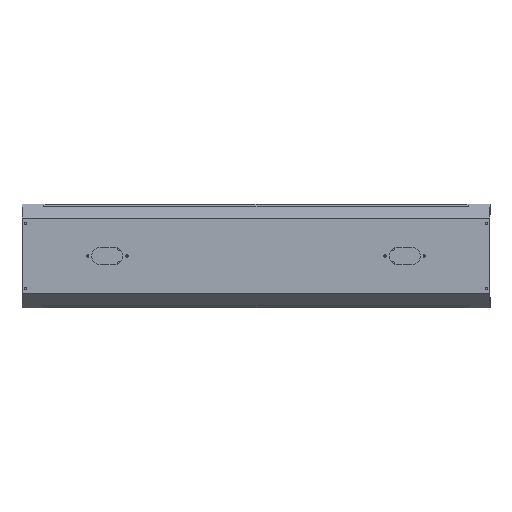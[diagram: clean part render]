
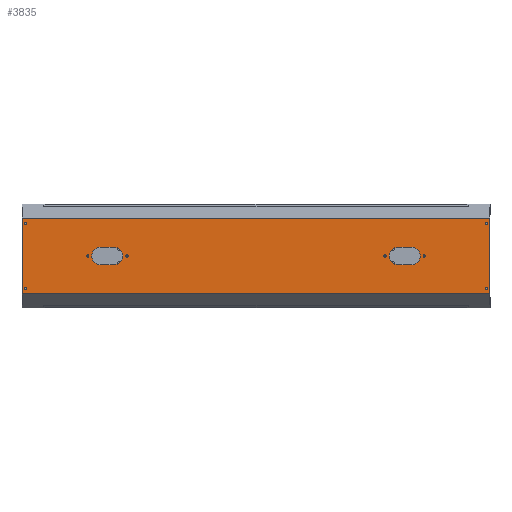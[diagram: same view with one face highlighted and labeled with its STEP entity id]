
A CAD part, front view. The second image highlights one B-rep face of the part: STEP entity #3835.
In plain terms, the highlighted planar face has unit normal (0, -1, 0).
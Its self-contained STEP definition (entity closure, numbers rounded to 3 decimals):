
#673=DIRECTION('',(1.,0.,0.));
#674=VECTOR('',#673,1351.6);
#675=CARTESIAN_POINT('',(-675.8,-150.,-108.893));
#676=LINE('',#675,#674);
#796=DIRECTION('',(0.,0.,-1.));
#797=VECTOR('',#796,217.785);
#798=CARTESIAN_POINT('',(-675.8,-150.,108.893));
#799=LINE('',#798,#797);
#808=DIRECTION('',(1.,0.,0.));
#809=VECTOR('',#808,1351.6);
#810=CARTESIAN_POINT('',(-675.8,-150.,108.893));
#811=LINE('',#810,#809);
#826=CARTESIAN_POINT('',(-410.,-150.,0.));
#827=DIRECTION('',(0.,-1.,0.));
#828=DIRECTION('',(0.,0.,-1.));
#829=AXIS2_PLACEMENT_3D('',#826,#827,#828);
#831=DIRECTION('',(1.,0.,0.));
#832=VECTOR('',#831,40.);
#833=CARTESIAN_POINT('',(-450.,-150.,25.));
#834=LINE('',#833,#832);
#835=CARTESIAN_POINT('',(-450.,-150.,0.));
#836=DIRECTION('',(0.,-1.,0.));
#837=DIRECTION('',(0.,0.,1.));
#838=AXIS2_PLACEMENT_3D('',#835,#836,#837);
#840=DIRECTION('',(-1.,0.,0.));
#841=VECTOR('',#840,40.);
#842=CARTESIAN_POINT('',(-410.,-150.,-25.));
#843=LINE('',#842,#841);
#844=CARTESIAN_POINT('',(410.,-150.,0.));
#845=DIRECTION('',(0.,-1.,0.));
#846=DIRECTION('',(0.,0.,1.));
#847=AXIS2_PLACEMENT_3D('',#844,#845,#846);
#849=DIRECTION('',(1.,0.,0.));
#850=VECTOR('',#849,40.);
#851=CARTESIAN_POINT('',(410.,-150.,-25.));
#852=LINE('',#851,#850);
#853=CARTESIAN_POINT('',(450.,-150.,0.));
#854=DIRECTION('',(0.,-1.,0.));
#855=DIRECTION('',(0.,0.,-1.));
#856=AXIS2_PLACEMENT_3D('',#853,#854,#855);
#858=DIRECTION('',(-1.,0.,0.));
#859=VECTOR('',#858,40.);
#860=CARTESIAN_POINT('',(450.,-150.,25.));
#861=LINE('',#860,#859);
#862=CARTESIAN_POINT('',(667.8,-150.,94.2));
#863=DIRECTION('',(0.,-1.,0.));
#864=DIRECTION('',(0.,0.,1.));
#865=AXIS2_PLACEMENT_3D('',#862,#863,#864);
#867=CARTESIAN_POINT('',(667.8,-150.,94.2));
#868=DIRECTION('',(0.,-1.,0.));
#869=DIRECTION('',(0.,0.,-1.));
#870=AXIS2_PLACEMENT_3D('',#867,#868,#869);
#872=CARTESIAN_POINT('',(667.8,-150.,-94.2));
#873=DIRECTION('',(0.,1.,0.));
#874=DIRECTION('',(0.,0.,-1.));
#875=AXIS2_PLACEMENT_3D('',#872,#873,#874);
#877=CARTESIAN_POINT('',(667.8,-150.,-94.2));
#878=DIRECTION('',(0.,1.,0.));
#879=DIRECTION('',(0.,0.,1.));
#880=AXIS2_PLACEMENT_3D('',#877,#878,#879);
#882=CARTESIAN_POINT('',(-667.8,-150.,94.2));
#883=DIRECTION('',(0.,1.,0.));
#884=DIRECTION('',(0.,0.,1.));
#885=AXIS2_PLACEMENT_3D('',#882,#883,#884);
#887=CARTESIAN_POINT('',(-667.8,-150.,94.2));
#888=DIRECTION('',(0.,1.,0.));
#889=DIRECTION('',(0.,0.,-1.));
#890=AXIS2_PLACEMENT_3D('',#887,#888,#889);
#892=CARTESIAN_POINT('',(-667.8,-150.,-94.2));
#893=DIRECTION('',(0.,-1.,0.));
#894=DIRECTION('',(0.,0.,-1.));
#895=AXIS2_PLACEMENT_3D('',#892,#893,#894);
#897=CARTESIAN_POINT('',(-667.8,-150.,-94.2));
#898=DIRECTION('',(0.,-1.,0.));
#899=DIRECTION('',(0.,0.,1.));
#900=AXIS2_PLACEMENT_3D('',#897,#898,#899);
#910=DIRECTION('',(0.,0.,-1.));
#911=VECTOR('',#910,217.785);
#912=CARTESIAN_POINT('',(675.8,-150.,108.893));
#913=LINE('',#912,#911);
#1630=CARTESIAN_POINT('',(-487.,-150.,0.));
#1631=DIRECTION('',(0.,-1.,0.));
#1632=DIRECTION('',(-1.,0.,0.));
#1633=AXIS2_PLACEMENT_3D('',#1630,#1631,#1632);
#1645=CARTESIAN_POINT('',(-487.,-150.,0.));
#1646=DIRECTION('',(0.,-1.,0.));
#1647=DIRECTION('',(1.,0.,0.));
#1648=AXIS2_PLACEMENT_3D('',#1645,#1646,#1647);
#1714=CARTESIAN_POINT('',(-373.,-150.,0.));
#1715=DIRECTION('',(0.,-1.,0.));
#1716=DIRECTION('',(-1.,0.,0.));
#1717=AXIS2_PLACEMENT_3D('',#1714,#1715,#1716);
#1729=CARTESIAN_POINT('',(-373.,-150.,0.));
#1730=DIRECTION('',(0.,-1.,0.));
#1731=DIRECTION('',(1.,0.,0.));
#1732=AXIS2_PLACEMENT_3D('',#1729,#1730,#1731);
#1814=CARTESIAN_POINT('',(373.,-150.,0.));
#1815=DIRECTION('',(0.,-1.,0.));
#1816=DIRECTION('',(-1.,0.,0.));
#1817=AXIS2_PLACEMENT_3D('',#1814,#1815,#1816);
#1829=CARTESIAN_POINT('',(373.,-150.,0.));
#1830=DIRECTION('',(0.,-1.,0.));
#1831=DIRECTION('',(1.,0.,0.));
#1832=AXIS2_PLACEMENT_3D('',#1829,#1830,#1831);
#1898=CARTESIAN_POINT('',(487.,-150.,0.));
#1899=DIRECTION('',(0.,-1.,0.));
#1900=DIRECTION('',(1.,0.,0.));
#1901=AXIS2_PLACEMENT_3D('',#1898,#1899,#1900);
#1913=CARTESIAN_POINT('',(487.,-150.,0.));
#1914=DIRECTION('',(0.,-1.,0.));
#1915=DIRECTION('',(-1.,0.,0.));
#1916=AXIS2_PLACEMENT_3D('',#1913,#1914,#1915);
#2050=CARTESIAN_POINT('',(-675.8,-150.,-108.893));
#2051=CARTESIAN_POINT('',(675.8,-150.,-108.893));
#2052=VERTEX_POINT('',#2050);
#2053=VERTEX_POINT('',#2051);
#2054=CARTESIAN_POINT('',(-675.8,-150.,108.893));
#2055=CARTESIAN_POINT('',(675.8,-150.,108.893));
#2056=VERTEX_POINT('',#2054);
#2057=VERTEX_POINT('',#2055);
#2134=CARTESIAN_POINT('',(-490.2,-150.,0.));
#2136=VERTEX_POINT('',#2134);
#2140=CARTESIAN_POINT('',(-483.8,-150.,0.));
#2142=VERTEX_POINT('',#2140);
#2154=CARTESIAN_POINT('',(-376.2,-150.,0.));
#2156=VERTEX_POINT('',#2154);
#2160=CARTESIAN_POINT('',(-369.8,-150.,0.));
#2162=VERTEX_POINT('',#2160);
#2278=CARTESIAN_POINT('',(667.8,-150.,97.2));
#2279=CARTESIAN_POINT('',(667.8,-150.,91.2));
#2280=VERTEX_POINT('',#2278);
#2281=VERTEX_POINT('',#2279);
#2286=CARTESIAN_POINT('',(667.8,-150.,-97.2));
#2287=CARTESIAN_POINT('',(667.8,-150.,-91.2));
#2288=VERTEX_POINT('',#2286);
#2289=VERTEX_POINT('',#2287);
#2294=CARTESIAN_POINT('',(-667.8,-150.,97.2));
#2295=CARTESIAN_POINT('',(-667.8,-150.,91.2));
#2296=VERTEX_POINT('',#2294);
#2297=VERTEX_POINT('',#2295);
#2302=CARTESIAN_POINT('',(-667.8,-150.,-97.2));
#2303=CARTESIAN_POINT('',(-667.8,-150.,-91.2));
#2304=VERTEX_POINT('',#2302);
#2305=VERTEX_POINT('',#2303);
#2310=CARTESIAN_POINT('',(-410.,-150.,-25.));
#2312=VERTEX_POINT('',#2310);
#2314=CARTESIAN_POINT('',(-410.,-150.,25.));
#2316=VERTEX_POINT('',#2314);
#2318=CARTESIAN_POINT('',(-450.,-150.,25.));
#2320=VERTEX_POINT('',#2318);
#2322=CARTESIAN_POINT('',(-450.,-150.,-25.));
#2324=VERTEX_POINT('',#2322);
#2326=CARTESIAN_POINT('',(410.,-150.,25.));
#2328=VERTEX_POINT('',#2326);
#2330=CARTESIAN_POINT('',(410.,-150.,-25.));
#2332=VERTEX_POINT('',#2330);
#2334=CARTESIAN_POINT('',(450.,-150.,25.));
#2336=VERTEX_POINT('',#2334);
#2338=CARTESIAN_POINT('',(450.,-150.,-25.));
#2340=VERTEX_POINT('',#2338);
#2342=CARTESIAN_POINT('',(369.8,-150.,0.));
#2344=VERTEX_POINT('',#2342);
#2348=CARTESIAN_POINT('',(376.2,-150.,0.));
#2350=VERTEX_POINT('',#2348);
#2362=CARTESIAN_POINT('',(490.2,-150.,0.));
#2364=VERTEX_POINT('',#2362);
#2368=CARTESIAN_POINT('',(483.8,-150.,0.));
#2370=VERTEX_POINT('',#2368);
#3755=CARTESIAN_POINT('',(-675.8,-150.,109.585));
#3756=DIRECTION('',(0.,-1.,0.));
#3757=DIRECTION('',(0.,0.,-1.));
#3758=AXIS2_PLACEMENT_3D('',#3755,#3756,#3757);
#3759=PLANE('',#3758);
#3760=ORIENTED_EDGE('',*,*,#3708,.F.);
#3761=ORIENTED_EDGE('',*,*,#3745,.T.);
#3763=ORIENTED_EDGE('',*,*,#3762,.T.);
#3764=ORIENTED_EDGE('',*,*,#3555,.F.);
#3765=EDGE_LOOP('',(#3760,#3761,#3763,#3764));
#3766=FACE_OUTER_BOUND('',#3765,.F.);
#3768=ORIENTED_EDGE('',*,*,#3767,.T.);
#3770=ORIENTED_EDGE('',*,*,#3769,.F.);
#3772=ORIENTED_EDGE('',*,*,#3771,.T.);
#3774=ORIENTED_EDGE('',*,*,#3773,.F.);
#3775=EDGE_LOOP('',(#3768,#3770,#3772,#3774));
#3776=FACE_BOUND('',#3775,.F.);
#3778=ORIENTED_EDGE('',*,*,#3777,.T.);
#3780=ORIENTED_EDGE('',*,*,#3779,.T.);
#3781=EDGE_LOOP('',(#3778,#3780));
#3782=FACE_BOUND('',#3781,.F.);
#3784=ORIENTED_EDGE('',*,*,#3783,.T.);
#3786=ORIENTED_EDGE('',*,*,#3785,.T.);
#3787=EDGE_LOOP('',(#3784,#3786));
#3788=FACE_BOUND('',#3787,.F.);
#3790=ORIENTED_EDGE('',*,*,#3789,.T.);
#3792=ORIENTED_EDGE('',*,*,#3791,.T.);
#3794=ORIENTED_EDGE('',*,*,#3793,.T.);
#3796=ORIENTED_EDGE('',*,*,#3795,.T.);
#3797=EDGE_LOOP('',(#3790,#3792,#3794,#3796));
#3798=FACE_BOUND('',#3797,.F.);
#3800=ORIENTED_EDGE('',*,*,#3799,.T.);
#3802=ORIENTED_EDGE('',*,*,#3801,.T.);
#3803=EDGE_LOOP('',(#3800,#3802));
#3804=FACE_BOUND('',#3803,.F.);
#3806=ORIENTED_EDGE('',*,*,#3805,.T.);
#3808=ORIENTED_EDGE('',*,*,#3807,.T.);
#3809=EDGE_LOOP('',(#3806,#3808));
#3810=FACE_BOUND('',#3809,.F.);
#3812=ORIENTED_EDGE('',*,*,#3811,.T.);
#3814=ORIENTED_EDGE('',*,*,#3813,.T.);
#3815=EDGE_LOOP('',(#3812,#3814));
#3816=FACE_BOUND('',#3815,.F.);
#3818=ORIENTED_EDGE('',*,*,#3817,.F.);
#3820=ORIENTED_EDGE('',*,*,#3819,.F.);
#3821=EDGE_LOOP('',(#3818,#3820));
#3822=FACE_BOUND('',#3821,.F.);
#3824=ORIENTED_EDGE('',*,*,#3823,.F.);
#3826=ORIENTED_EDGE('',*,*,#3825,.F.);
#3827=EDGE_LOOP('',(#3824,#3826));
#3828=FACE_BOUND('',#3827,.F.);
#3830=ORIENTED_EDGE('',*,*,#3829,.T.);
#3832=ORIENTED_EDGE('',*,*,#3831,.T.);
#3833=EDGE_LOOP('',(#3830,#3832));
#3834=FACE_BOUND('',#3833,.F.);
#3835=ADVANCED_FACE('',(#3766,#3776,#3782,#3788,#3798,#3804,#3810,#3816,#3822,
#3828,#3834),#3759,.T.);
#830=CIRCLE('',#829,25.);
#839=CIRCLE('',#838,25.);
#848=CIRCLE('',#847,25.);
#857=CIRCLE('',#856,25.);
#866=CIRCLE('',#865,3.);
#871=CIRCLE('',#870,3.);
#876=CIRCLE('',#875,3.);
#881=CIRCLE('',#880,3.);
#886=CIRCLE('',#885,3.);
#891=CIRCLE('',#890,3.);
#896=CIRCLE('',#895,3.);
#901=CIRCLE('',#900,3.);
#1634=CIRCLE('',#1633,3.2);
#1649=CIRCLE('',#1648,3.2);
#1718=CIRCLE('',#1717,3.2);
#1733=CIRCLE('',#1732,3.2);
#1818=CIRCLE('',#1817,3.2);
#1833=CIRCLE('',#1832,3.2);
#1902=CIRCLE('',#1901,3.2);
#1917=CIRCLE('',#1916,3.2);
#3555=EDGE_CURVE('',#2052,#2053,#676,.T.);
#3708=EDGE_CURVE('',#2056,#2052,#799,.T.);
#3745=EDGE_CURVE('',#2056,#2057,#811,.T.);
#3762=EDGE_CURVE('',#2057,#2053,#913,.T.);
#3767=EDGE_CURVE('',#2312,#2316,#830,.T.);
#3769=EDGE_CURVE('',#2320,#2316,#834,.T.);
#3771=EDGE_CURVE('',#2320,#2324,#839,.T.);
#3773=EDGE_CURVE('',#2312,#2324,#843,.T.);
#3777=EDGE_CURVE('',#2136,#2142,#1634,.T.);
#3779=EDGE_CURVE('',#2142,#2136,#1649,.T.);
#3783=EDGE_CURVE('',#2156,#2162,#1718,.T.);
#3785=EDGE_CURVE('',#2162,#2156,#1733,.T.);
#3789=EDGE_CURVE('',#2328,#2332,#848,.T.);
#3791=EDGE_CURVE('',#2332,#2340,#852,.T.);
#3793=EDGE_CURVE('',#2340,#2336,#857,.T.);
#3795=EDGE_CURVE('',#2336,#2328,#861,.T.);
#3799=EDGE_CURVE('',#2344,#2350,#1818,.T.);
#3801=EDGE_CURVE('',#2350,#2344,#1833,.T.);
#3805=EDGE_CURVE('',#2364,#2370,#1902,.T.);
#3807=EDGE_CURVE('',#2370,#2364,#1917,.T.);
#3811=EDGE_CURVE('',#2280,#2281,#866,.T.);
#3813=EDGE_CURVE('',#2281,#2280,#871,.T.);
#3817=EDGE_CURVE('',#2288,#2289,#876,.T.);
#3819=EDGE_CURVE('',#2289,#2288,#881,.T.);
#3823=EDGE_CURVE('',#2296,#2297,#886,.T.);
#3825=EDGE_CURVE('',#2297,#2296,#891,.T.);
#3829=EDGE_CURVE('',#2304,#2305,#896,.T.);
#3831=EDGE_CURVE('',#2305,#2304,#901,.T.);
